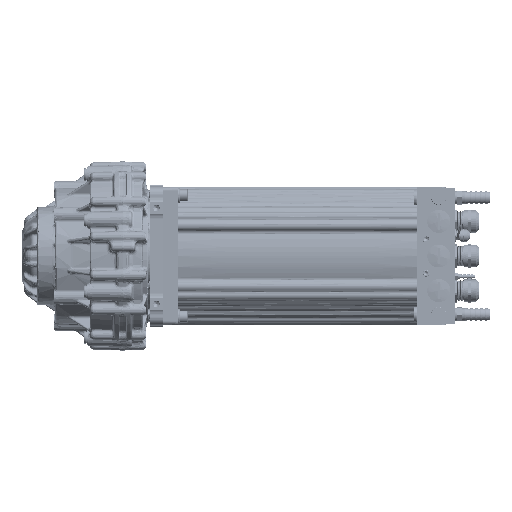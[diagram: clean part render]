
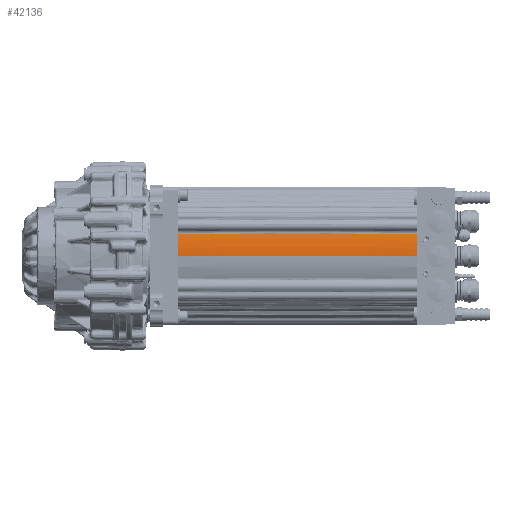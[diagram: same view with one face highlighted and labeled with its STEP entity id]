
A CAD part, left-side view. The second image highlights one B-rep face of the part: STEP entity #42136.
In plain terms, the highlighted face is a extrusion surface.
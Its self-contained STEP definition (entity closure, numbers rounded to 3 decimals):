
#40522=CARTESIAN_POINT('Line Origine',(31.5,-275.5,0.038)) ;
#40526=CARTESIAN_POINT('Vertex',(31.5,-120.4,0.038)) ;
#40528=CARTESIAN_POINT('Vertex',(31.5,-430.6,0.038)) ;
#40904=CARTESIAN_POINT('Control Point',(36.046,-120.4,28.161)) ;
#40905=CARTESIAN_POINT('Control Point',(34.239,-120.4,22.711)) ;
#40906=CARTESIAN_POINT('Control Point',(32.867,-120.4,17.144)) ;
#40907=CARTESIAN_POINT('Control Point',(31.953,-120.4,11.488)) ;
#40908=CARTESIAN_POINT('Control Point',(31.502,-120.4,5.774)) ;
#40909=CARTESIAN_POINT('Control Point',(31.5,-120.4,0.038)) ;
#40910=CARTESIAN_POINT('Vertex',(36.046,-120.4,28.161)) ;
#41692=CARTESIAN_POINT('Vertex',(36.046,-430.6,28.161)) ;
#41696=CARTESIAN_POINT('Control Point',(36.046,-430.6,28.161)) ;
#41697=CARTESIAN_POINT('Control Point',(34.239,-430.6,22.711)) ;
#41698=CARTESIAN_POINT('Control Point',(32.867,-430.6,17.144)) ;
#41699=CARTESIAN_POINT('Control Point',(31.953,-430.6,11.488)) ;
#41700=CARTESIAN_POINT('Control Point',(31.502,-430.6,5.774)) ;
#41701=CARTESIAN_POINT('Control Point',(31.5,-430.6,0.038)) ;
#42116=CARTESIAN_POINT('Control Point',(36.046,-100.,28.161)) ;
#42117=CARTESIAN_POINT('Control Point',(34.236,-100.,22.702)) ;
#42118=CARTESIAN_POINT('Control Point',(32.866,-100.,17.138)) ;
#42119=CARTESIAN_POINT('Control Point',(31.954,-100.,11.489)) ;
#42120=CARTESIAN_POINT('Control Point',(31.502,-100.,5.781)) ;
#42121=CARTESIAN_POINT('Control Point',(31.5,-100.,0.038)) ;
#42125=CARTESIAN_POINT('Line Origine',(36.046,-275.5,28.161)) ;
#40523=DIRECTION('Vector Direction',(0.,-1.,0.)) ;
#42122=DIRECTION('Vector Direction',(0.,-1.,0.)) ;
#42126=DIRECTION('Vector Direction',(0.,-1.,0.)) ;
#42131=ORIENTED_EDGE('',*,*,#42129,.F.) ;
#42132=ORIENTED_EDGE('',*,*,#40912,.T.) ;
#42133=ORIENTED_EDGE('',*,*,#40530,.T.) ;
#42134=ORIENTED_EDGE('',*,*,#41702,.F.) ;
#40524=VECTOR('Line Direction',#40523,1.) ;
#42123=VECTOR('Extrusion Surface Vector',#42122,1.) ;
#42127=VECTOR('Line Direction',#42126,1.) ;
#42136=ADVANCED_FACE('4U_MOTOR',(#42135),#42124,.T.) ;
#40903=B_SPLINE_CURVE_WITH_KNOTS('',5,(#40904,#40905,#40906,#40907,#40908,#40909),.UNSPECIFIED.,.F.,.U.,(6,6),(0.,49.626),.UNSPECIFIED.) ;
#41695=B_SPLINE_CURVE_WITH_KNOTS('',5,(#41696,#41697,#41698,#41699,#41700,#41701),.UNSPECIFIED.,.F.,.U.,(6,6),(0.,49.626),.UNSPECIFIED.) ;
#42115=B_SPLINE_CURVE_WITH_KNOTS('',5,(#42116,#42117,#42118,#42119,#42120,#42121),.UNSPECIFIED.,.F.,.U.,(6,6),(0.,28.672),.UNSPECIFIED.) ;
#40530=EDGE_CURVE('',#40527,#40529,#40525,.T.) ;
#40912=EDGE_CURVE('',#40911,#40527,#40903,.T.) ;
#41702=EDGE_CURVE('',#41693,#40529,#41695,.T.) ;
#42129=EDGE_CURVE('',#40911,#41693,#42128,.T.) ;
#42130=EDGE_LOOP('',(#42131,#42132,#42133,#42134)) ;
#42135=FACE_OUTER_BOUND('',#42130,.T.) ;
#40525=LINE('Line',#40522,#40524) ;
#42128=LINE('Line',#42125,#42127) ;
#42124=SURFACE_OF_LINEAR_EXTRUSION('generated tabulated cylinder',#42115,#42123) ;
#40527=VERTEX_POINT('',#40526) ;
#40529=VERTEX_POINT('',#40528) ;
#40911=VERTEX_POINT('',#40910) ;
#41693=VERTEX_POINT('',#41692) ;
